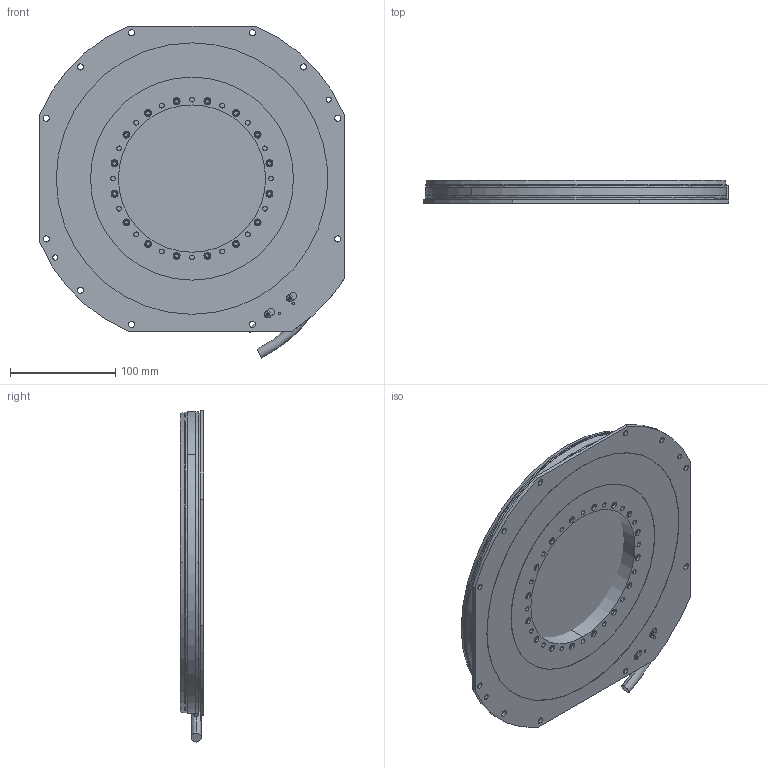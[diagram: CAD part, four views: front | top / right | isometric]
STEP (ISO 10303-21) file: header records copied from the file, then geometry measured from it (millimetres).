
FILE_DESCRIPTION (( 'STEP AP203' ), '1' );
FILE_NAME ('T24113A1_DMTB2-70SP00-S0-3XS-0-0.STEP', '2024-01-22T10:29:46', ( '' ), ( '' ), 'SwSTEP 2.0', 'SolidWorks 2015', '' );
FILE_SCHEMA (( 'CONFIG_CONTROL_DESIGN' ));
Length unit declared in the file: millimetre
Products named in the file (1): T24113A1_DMTB2-70SP00-S0-3XS-0-0
Bounding box: 290 x 22 x 315.54 mm (x, y, z)
Volume: 1039463.5 mm3; surface area: 179481 mm2
Topology: 1 solids, 1 shells, 1115 faces, 2717 edges, 1740 vertices
Faces by surface type: plane 498, cylinder 396, cone 139, torus 41, bspline 41
Entity records: 33480 total; most frequent: CARTESIAN_POINT 6959, DIRECTION 5647, ORIENTED_EDGE 5346, EDGE_CURVE 2673, AXIS2_PLACEMENT_3D 2134, VERTEX_POINT 1740, VECTOR 1379, LINE 1379
